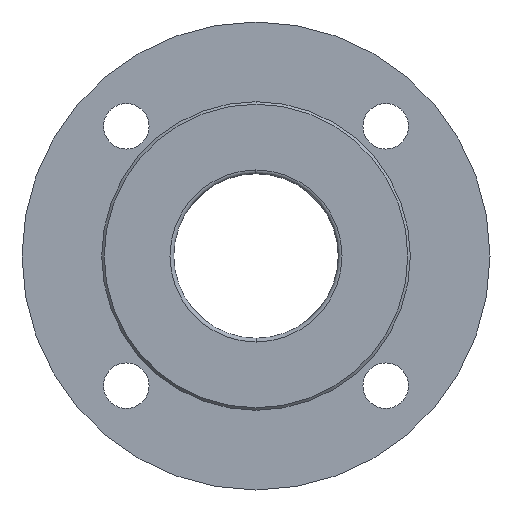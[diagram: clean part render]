
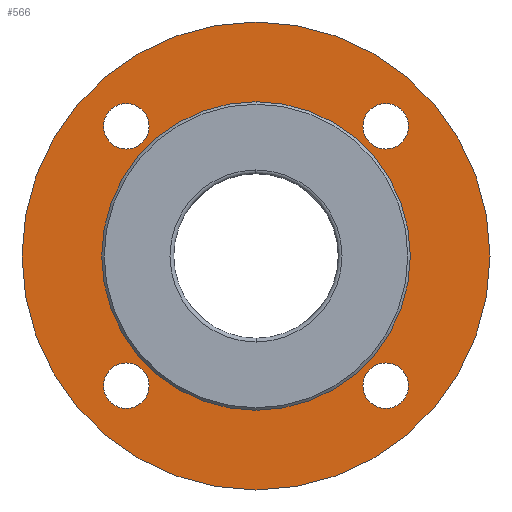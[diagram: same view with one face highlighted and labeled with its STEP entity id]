
A CAD part, left-side view. The second image highlights one B-rep face of the part: STEP entity #566.
In plain terms, the highlighted planar face has unit normal (-1, 0, 0).
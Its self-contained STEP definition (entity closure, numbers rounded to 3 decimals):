
#256 = EDGE_CURVE ( 'NONE', #267, #266, #898, .T. ) ;
#266 = VERTEX_POINT ( 'NONE', #900 ) ;
#267 = VERTEX_POINT ( 'NONE', #901 ) ;
#276 = VERTEX_POINT ( 'NONE', #1651 ) ;
#279 = EDGE_CURVE ( 'NONE', #276, #281, #1722, .T. ) ;
#281 = VERTEX_POINT ( 'NONE', #1701 ) ;
#289 = EDGE_CURVE ( 'NONE', #294, #290, #1715, .T. ) ;
#290 = VERTEX_POINT ( 'NONE', #1716 ) ;
#294 = VERTEX_POINT ( 'NONE', #1646 ) ;
#342 = EDGE_CURVE ( 'NONE', #344, #355, #1634, .T. ) ;
#344 = VERTEX_POINT ( 'NONE', #1628 ) ;
#355 = VERTEX_POINT ( 'NONE', #1686 ) ;
#542 = ORIENTED_EDGE ( 'NONE', *, *, #592, .T. ) ;
#544 = EDGE_LOOP ( 'NONE', ( #549, #542 ) ) ;
#546 = ORIENTED_EDGE ( 'NONE', *, *, #342, .T. ) ;
#547 = ORIENTED_EDGE ( 'NONE', *, *, #636, .T. ) ;
#548 = ORIENTED_EDGE ( 'NONE', *, *, #569, .T. ) ;
#549 = ORIENTED_EDGE ( 'NONE', *, *, #289, .T. ) ;
#550 = VERTEX_POINT ( 'NONE', #1227 ) ;
#566 = ADVANCED_FACE ( 'NONE', ( #1387, #1328, #1319, #1292, #1329, #1281 ), #1327, .F. ) ;
#567 = EDGE_CURVE ( 'NONE', #266, #267, #1276, .T. ) ;
#568 = ORIENTED_EDGE ( 'NONE', *, *, #256, .T. ) ;
#569 = EDGE_CURVE ( 'NONE', #649, #581, #1294, .T. ) ;
#581 = VERTEX_POINT ( 'NONE', #1282 ) ;
#583 = EDGE_LOOP ( 'NONE', ( #568, #660 ) ) ;
#584 = EDGE_LOOP ( 'NONE', ( #546, #594 ) ) ;
#592 = EDGE_CURVE ( 'NONE', #290, #294, #1348, .T. ) ;
#593 = EDGE_CURVE ( 'NONE', #281, #276, #1312, .T. ) ;
#594 = ORIENTED_EDGE ( 'NONE', *, *, #638, .T. ) ;
#596 = ORIENTED_EDGE ( 'NONE', *, *, #674, .F. ) ;
#635 = EDGE_LOOP ( 'NONE', ( #548, #547 ) ) ;
#636 = EDGE_CURVE ( 'NONE', #581, #649, #1392, .T. ) ;
#637 = ORIENTED_EDGE ( 'NONE', *, *, #279, .T. ) ;
#638 = EDGE_CURVE ( 'NONE', #355, #344, #1399, .T. ) ;
#640 = ORIENTED_EDGE ( 'NONE', *, *, #643, .F. ) ;
#643 = EDGE_CURVE ( 'NONE', #550, #645, #1420, .T. ) ;
#645 = VERTEX_POINT ( 'NONE', #1464 ) ;
#649 = VERTEX_POINT ( 'NONE', #1475 ) ;
#657 = EDGE_LOOP ( 'NONE', ( #596, #640 ) ) ;
#660 = ORIENTED_EDGE ( 'NONE', *, *, #567, .T. ) ;
#661 = ORIENTED_EDGE ( 'NONE', *, *, #593, .T. ) ;
#662 = EDGE_LOOP ( 'NONE', ( #637, #661 ) ) ;
#674 = EDGE_CURVE ( 'NONE', #645, #550, #1493, .T. ) ;
#893 = DIRECTION ( 'NONE',  ( 0., 0., -1. ) ) ;
#894 = DIRECTION ( 'NONE',  ( 1., 0., 0. ) ) ;
#896 = AXIS2_PLACEMENT_3D ( 'NONE', #897, #894, #893 ) ;
#897 = CARTESIAN_POINT ( 'NONE',  ( -49., 51.265, 51.265 ) ) ;
#898 = CIRCLE ( 'NONE', #896, 9. ) ;
#900 = CARTESIAN_POINT ( 'NONE',  ( -49., 51.265, 42.265 ) ) ;
#901 = CARTESIAN_POINT ( 'NONE',  ( -49., 51.265, 60.265 ) ) ;
#1227 = CARTESIAN_POINT ( 'NONE',  ( -49., 0., -61. ) ) ;
#1274 = DIRECTION ( 'NONE',  ( 1., 0., 0. ) ) ;
#1275 = CARTESIAN_POINT ( 'NONE',  ( -49., 51.265, 51.265 ) ) ;
#1276 = CIRCLE ( 'NONE', #1361, 9. ) ;
#1281 = FACE_OUTER_BOUND ( 'NONE', #635, .T. ) ;
#1282 = CARTESIAN_POINT ( 'NONE',  ( -49., 0., -92.5 ) ) ;
#1290 = DIRECTION ( 'NONE',  ( 0., 0., -1. ) ) ;
#1292 = FACE_BOUND ( 'NONE', #584, .T. ) ;
#1293 = AXIS2_PLACEMENT_3D ( 'NONE', #1360, #1359, #1358 ) ;
#1294 = CIRCLE ( 'NONE', #1293, 92.5 ) ;
#1295 = DIRECTION ( 'NONE',  ( 0., 0., -1. ) ) ;
#1309 = DIRECTION ( 'NONE',  ( 0., 0., -1. ) ) ;
#1310 = DIRECTION ( 'NONE',  ( 1., 0., 0. ) ) ;
#1311 = CARTESIAN_POINT ( 'NONE',  ( -49., -51.265, 51.265 ) ) ;
#1312 = CIRCLE ( 'NONE', #1339, 9. ) ;
#1313 = CARTESIAN_POINT ( 'NONE',  ( -49., 0., 0. ) ) ;
#1316 = DIRECTION ( 'NONE',  ( 0., 0., -1. ) ) ;
#1317 = DIRECTION ( 'NONE',  ( 1., 0., 0. ) ) ;
#1319 = FACE_BOUND ( 'NONE', #544, .T. ) ;
#1320 = DIRECTION ( 'NONE',  ( 1., 0., 0. ) ) ;
#1327 = PLANE ( 'NONE',  #1370 ) ;
#1328 = FACE_BOUND ( 'NONE', #662, .T. ) ;
#1329 = FACE_BOUND ( 'NONE', #657, .T. ) ;
#1338 = CARTESIAN_POINT ( 'NONE',  ( -49., 61., 0. ) ) ;
#1339 = AXIS2_PLACEMENT_3D ( 'NONE', #1311, #1310, #1309 ) ;
#1348 = CIRCLE ( 'NONE', #1350, 9. ) ;
#1350 = AXIS2_PLACEMENT_3D ( 'NONE', #1354, #1317, #1316 ) ;
#1354 = CARTESIAN_POINT ( 'NONE',  ( -49., -51.265, -51.265 ) ) ;
#1358 = DIRECTION ( 'NONE',  ( 0., 0., 1. ) ) ;
#1359 = DIRECTION ( 'NONE',  ( -1., 0., 0. ) ) ;
#1360 = CARTESIAN_POINT ( 'NONE',  ( -49., 0., 0. ) ) ;
#1361 = AXIS2_PLACEMENT_3D ( 'NONE', #1275, #1274, #1290 ) ;
#1370 = AXIS2_PLACEMENT_3D ( 'NONE', #1338, #1320, #1295 ) ;
#1387 = FACE_BOUND ( 'NONE', #583, .T. ) ;
#1392 = CIRCLE ( 'NONE', #1393, 92.5 ) ;
#1393 = AXIS2_PLACEMENT_3D ( 'NONE', #1313, #1397, #1398 ) ;
#1395 = DIRECTION ( 'NONE',  ( 1., 0., 0. ) ) ;
#1397 = DIRECTION ( 'NONE',  ( -1., 0., 0. ) ) ;
#1398 = DIRECTION ( 'NONE',  ( 0., 0., 1. ) ) ;
#1399 = CIRCLE ( 'NONE', #1401, 9. ) ;
#1401 = AXIS2_PLACEMENT_3D ( 'NONE', #1402, #1395, #1403 ) ;
#1402 = CARTESIAN_POINT ( 'NONE',  ( -49., 51.265, -51.265 ) ) ;
#1403 = DIRECTION ( 'NONE',  ( 0., 0., -1. ) ) ;
#1410 = DIRECTION ( 'NONE',  ( 0., 0., 1. ) ) ;
#1416 = DIRECTION ( 'NONE',  ( -1., 0., 0. ) ) ;
#1417 = AXIS2_PLACEMENT_3D ( 'NONE', #1419, #1416, #1410 ) ;
#1419 = CARTESIAN_POINT ( 'NONE',  ( -49., 0., 0. ) ) ;
#1420 = CIRCLE ( 'NONE', #1417, 61. ) ;
#1464 = CARTESIAN_POINT ( 'NONE',  ( -49., 0., 61. ) ) ;
#1475 = CARTESIAN_POINT ( 'NONE',  ( -49., 0., 92.5 ) ) ;
#1488 = AXIS2_PLACEMENT_3D ( 'NONE', #1492, #1491, #1490 ) ;
#1490 = DIRECTION ( 'NONE',  ( 0., 0., 1. ) ) ;
#1491 = DIRECTION ( 'NONE',  ( -1., 0., 0. ) ) ;
#1492 = CARTESIAN_POINT ( 'NONE',  ( -49., 0., 0. ) ) ;
#1493 = CIRCLE ( 'NONE', #1488, 61. ) ;
#1628 = CARTESIAN_POINT ( 'NONE',  ( -49., 51.265, -42.265 ) ) ;
#1631 = DIRECTION ( 'NONE',  ( 0., 0., -1. ) ) ;
#1632 = DIRECTION ( 'NONE',  ( 1., 0., 0. ) ) ;
#1633 = CARTESIAN_POINT ( 'NONE',  ( -49., 51.265, -51.265 ) ) ;
#1634 = CIRCLE ( 'NONE', #1643, 9. ) ;
#1643 = AXIS2_PLACEMENT_3D ( 'NONE', #1633, #1632, #1631 ) ;
#1646 = CARTESIAN_POINT ( 'NONE',  ( -49., -51.265, -42.265 ) ) ;
#1651 = CARTESIAN_POINT ( 'NONE',  ( -49., -51.265, 60.265 ) ) ;
#1686 = CARTESIAN_POINT ( 'NONE',  ( -49., 51.265, -60.265 ) ) ;
#1699 = DIRECTION ( 'NONE',  ( 0., 0., -1. ) ) ;
#1700 = DIRECTION ( 'NONE',  ( 1., 0., 0. ) ) ;
#1701 = CARTESIAN_POINT ( 'NONE',  ( -49., -51.265, 42.265 ) ) ;
#1707 = DIRECTION ( 'NONE',  ( 0., 0., -1. ) ) ;
#1708 = DIRECTION ( 'NONE',  ( 1., 0., 0. ) ) ;
#1715 = CIRCLE ( 'NONE', #1720, 9. ) ;
#1716 = CARTESIAN_POINT ( 'NONE',  ( -49., -51.265, -60.265 ) ) ;
#1720 = AXIS2_PLACEMENT_3D ( 'NONE', #1743, #1708, #1707 ) ;
#1722 = CIRCLE ( 'NONE', #1748, 9. ) ;
#1723 = CARTESIAN_POINT ( 'NONE',  ( -49., -51.265, 51.265 ) ) ;
#1743 = CARTESIAN_POINT ( 'NONE',  ( -49., -51.265, -51.265 ) ) ;
#1748 = AXIS2_PLACEMENT_3D ( 'NONE', #1723, #1700, #1699 ) ;
